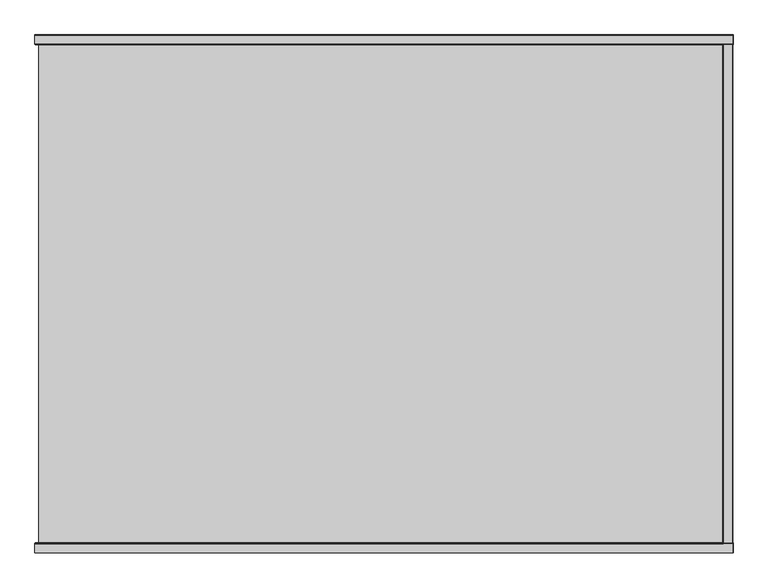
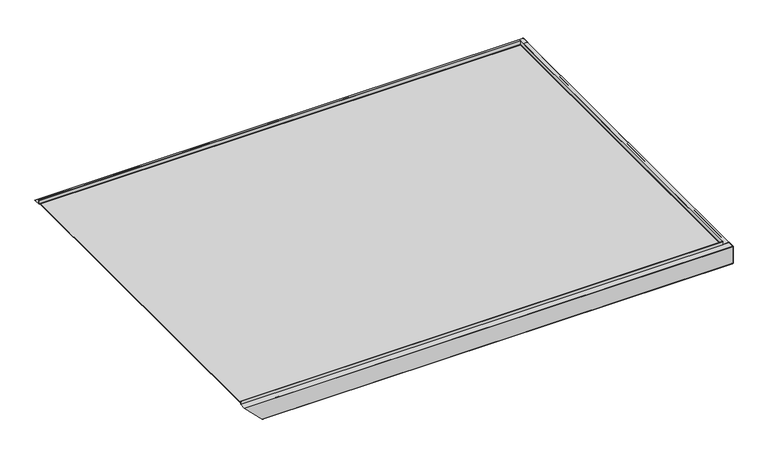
"""IFC4 building model written with IfcOpenShell, lengths in millimetres: proxy geometry, Specialy Equipment_Blindspace_Standard-Pockets-for-Roller-Blinds : 3500 mm x 2600 mm with 130 x 130 mm Box."""

from ifc_helpers import new_model, si_unit, point, frame, frame_2d, origin, place, context, project, spatial, polyline, circle_curve, ellipse_curve, trimmed, segment, composite_curve, outline, extrude, source, transform, mapped, element, save
from ifc_brep_helpers import plane_surface, cylinder_surface, advanced_brep


def specialty_equipment_84c0f78b(model_context):
    return source(origin(), model_context, "Body", "SolidModel", [
        extrude(outline(polyline([(1704.2337728, -1250.0), (1702.7519052, -1250.0), (1702.7519052, 1250.0), (1704.2337728, 1250.0), (1704.2337728, -1250.0)])), frame((0.0, 0.0, -180.0211687), z_axis=(0.0, 0.0, 1.0), x_axis=(1.0, 0.0, 0.0)), (0.0, 0.0, 1.0), 25.0211686),
        extrude(outline(polyline([(1704.2337728, -1250.0), (1702.7519052, -1250.0), (1702.7519052, 1250.0), (1704.2337728, 1250.0), (1704.2337728, -1250.0)])), frame((0.0, 0.0, -25.0), z_axis=(0.0, 0.0, 1.0), x_axis=(1.0, 0.0, 0.0)), (0.0, 0.0, 1.0), 25.0211686),
        extrude(outline(composite_curve([segment(trimmed(circle_curve(frame_2d((-154.2499999, 1749.25)), 0.75), [point((-154.9999999, 1749.25))], [point((-154.2499999, 1750.0))], False, "CARTESIAN"), True, "CONTINUOUS"), segment(polyline([(-154.2499999, 1750.0), (-25.75, 1750.0)]), True, "CONTINUOUS"), segment(trimmed(circle_curve(frame_2d((-25.75, 1749.25)), 0.75), [point((-25.75, 1750.0))], [point((-25.0, 1749.25))], False, "CARTESIAN"), True, "CONTINUOUS"), segment(polyline([(-25.0, 1749.25), (-25.0, 1702.9175768), (-27.5, 1700.0), (-27.5, 1723.0149627), (-32.8, 1723.0149627), (-32.8, 1729.9597598), (-27.5, 1729.9597598), (-27.5, 1738.0030209), (-32.8, 1738.0030209), (-32.8, 1744.991), (-27.5, 1744.991), (-27.5, 1747.5), (-152.4999999, 1747.5), (-152.4999999, 1744.991), (-147.1999999, 1744.991), (-147.1999999, 1738.0030209), (-152.4999999, 1738.0030209), (-152.4999999, 1729.9597598), (-147.1999999, 1729.9597598), (-147.1999999, 1723.0149627), (-152.4999999, 1723.0149627), (-152.4999999, 1702.4875145), (-58.9999999, 1702.4875145), (-58.9999999, 1707.4875145), (-56.4999999, 1707.4875145), (-56.4999999, 1700.0), (-152.4999999, 1700.0), (-154.9999999, 1702.9175768), (-154.9999999, 1749.25)]), True, "CONTINUOUS")], self_intersect=False)), frame((0.0, -1250.0, 0.0), z_axis=(0.0, 1.0, 0.0), x_axis=(0.0, 0.0, 1.0)), (0.0, 0.0, 1.0), 2500.0),
        extrude(outline(polyline([(-1750.0, -1254.2337728), (-1750.0, -1252.7519052), (1704.2, -1252.7519052), (1704.2, -1254.2337728), (-1750.0, -1254.2337728)])), frame((0.0, 0.0, -25.0), z_axis=(0.0, 0.0, 1.0), x_axis=(1.0, 0.0, 0.0)), (0.0, 0.0, 1.0), 25.0211686),
        extrude(outline(polyline([(-180.0211687, 1704.2), (-155.0000001, 1704.2), (-155.0000001, -1619.9999999), (-180.0211687, -1594.9788313), (-180.0211687, 1704.2)])), frame((0.0, -1254.2337728, 0.0), z_axis=(0.0, 1.0, 0.0), x_axis=(0.0, 0.0, 1.0)), (0.0, 0.0, 1.0), 1.4818676),
        advanced_brep(
        [(1750.0, -1299.25, -154.9999999), (1750.0, -1252.9175768, -154.9999999), (1750.0, -1250.0, -152.4999999), (1750.0, -1250.0, -56.4999999), (1750.0, -1257.4875145, -56.4999999), (1750.0, -1257.4875145, -58.9999999), (1750.0, -1252.4875145, -58.9999999), (1750.0, -1252.4875145, -152.4999999), (1750.0, -1273.0149627, -152.4999999), (1750.0, -1273.0149627, -147.1999999), (1750.0, -1279.9597598, -147.1999999), (1750.0, -1279.9597598, -152.4999999), (1750.0, -1288.0030209, -152.4999999), (1750.0, -1288.0030209, -147.1999999), (1750.0, -1294.991, -147.1999999), (1750.0, -1294.991, -152.4999999), (1750.0, -1297.5, -152.4999999), (1750.0, -1297.5, -27.5), (1750.0, -1294.991, -27.5), (1750.0, -1294.991, -32.8), (1750.0, -1288.0030209, -32.8), (1750.0, -1288.0030209, -27.5), (1750.0, -1279.9597598, -27.5), (1750.0, -1279.9597598, -32.8), (1750.0, -1273.0149627, -32.8), (1750.0, -1273.0149627, -27.5), (1750.0, -1250.0, -27.5), (1750.0, -1252.9175768, -25.0), (1750.0, -1299.25, -25.0), (1750.0, -1300.0, -25.75), (1750.0, -1300.0, -154.2499999), (-1620.0000001, -1299.25, -154.9999999), (-1620.0000001, -1252.9175768, -154.9999999), (-1622.5000001, -1250.0, -152.4999999), (-1622.5000001, -1252.4875145, -152.4999999), (-1622.5000001, -1273.0149627, -152.4999999), (-1627.8000001, -1273.0149627, -147.1999999), (-1627.8000001, -1279.9597598, -147.1999999), (-1622.5000001, -1279.9597598, -152.4999999), (-1622.5000001, -1288.0030209, -152.4999999), (-1627.8000001, -1288.0030209, -147.1999999), (-1627.8000001, -1294.991, -147.1999999), (-1622.5000001, -1294.991, -152.4999999), (-1622.5000001, -1297.5, -152.4999999), (-1747.5, -1297.5, -27.5), (-1747.5, -1294.991, -27.5), (-1742.2, -1294.991, -32.8), (-1742.2, -1288.0030209, -32.8), (-1747.5, -1288.0030209, -27.5), (-1747.5, -1279.9597598, -27.5), (-1742.2, -1279.9597598, -32.8), (-1742.2, -1273.0149627, -32.8), (-1747.5, -1273.0149627, -27.5), (-1747.5, -1250.0, -27.5), (-1750.0, -1252.9175768, -25.0), (-1750.0, -1299.25, -25.0), (-1749.25, -1300.0, -25.75), (-1620.7500001, -1300.0, -154.2499999), (-1718.5000001, -1250.0, -56.4999999), (-1718.5000001, -1257.4875145, -56.4999999), (-1716.0000001, -1257.4875145, -58.9999999), (-1716.0000001, -1252.4875145, -58.9999999)],
        [
            (0, 1),
            (1, 2),
            (2, 3),
            (3, 4),
            (4, 5),
            (5, 6),
            (6, 7),
            (7, 8),
            (8, 9),
            (9, 10),
            (10, 11),
            (11, 12),
            (12, 13),
            (13, 14),
            (14, 15),
            (15, 16),
            (16, 17),
            (17, 18),
            (18, 19),
            (19, 20),
            (20, 21),
            (21, 22),
            (22, 23),
            (23, 24),
            (24, 25),
            (25, 26),
            (26, 27),
            (27, 28),
            (28, 29, circle_curve(frame((1750.0, -1299.25, -25.75), z_axis=(1.0, 0.0, 0.0), x_axis=(0.0, 1.0, 0.0)), 0.75)),
            (29, 30),
            (30, 0, circle_curve(frame((1750.0, -1299.25, -154.2499999), z_axis=(1.0, 0.0, 0.0), x_axis=(0.0, 1.0, 0.0)), 0.75)),
            (0, 31),
            (31, 32),
            (32, 1),
            (32, 33),
            (33, 2),
            (7, 34),
            (34, 35),
            (35, 8),
            (35, 36),
            (36, 9),
            (36, 37),
            (37, 10),
            (37, 38),
            (38, 11),
            (38, 39),
            (39, 12),
            (39, 40),
            (40, 13),
            (40, 41),
            (41, 14),
            (41, 42),
            (42, 15),
            (42, 43),
            (43, 16),
            (43, 44),
            (44, 17),
            (44, 45),
            (45, 18),
            (45, 46),
            (46, 19),
            (46, 47),
            (47, 20),
            (47, 48),
            (48, 21),
            (48, 49),
            (49, 22),
            (49, 50),
            (50, 23),
            (50, 51),
            (51, 24),
            (51, 52),
            (52, 25),
            (52, 53),
            (53, 26),
            (53, 54),
            (54, 27),
            (54, 55),
            (55, 28),
            (55, 56, ellipse_curve(frame((-1749.25, -1299.25, -25.75), z_axis=(0.7071067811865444, 0.0, 0.7071067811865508), x_axis=(-0.7071067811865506, 0.0, 0.7071067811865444)), 1.0606602, 0.75)),
            (56, 29),
            (56, 57),
            (57, 30),
            (57, 31, ellipse_curve(frame((-1620.7500001, -1299.25, -154.2499999), z_axis=(0.7071067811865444, 0.0, 0.7071067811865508), x_axis=(-0.7071067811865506, 0.0, 0.7071067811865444)), 1.0606602, 0.75)),
            (33, 58),
            (58, 3),
            (58, 59),
            (59, 4),
            (59, 60),
            (60, 5),
            (60, 61),
            (61, 6),
            (61, 34),
        ],
        [
            plane_surface(frame((1750.0, -1300.0, -25.0), z_axis=(1.0, 0.0, 0.0), x_axis=(0.0, 0.0, 1.0))),
            plane_surface(frame((-1750.0, -1252.9175768, -154.9999999), z_axis=(0.0, 0.0, -1.0), x_axis=(1.0, 0.0, 0.0))),
            plane_surface(frame((-1750.0, -1250.0, -152.4999999), z_axis=(0.0, 0.650674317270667, -0.7593569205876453), x_axis=(1.0, 0.0, 0.0))),
            plane_surface(frame((-1750.0, -1273.0149627, -152.4999999), z_axis=(0.0, 0.0, 1.0), x_axis=(1.0, 0.0, 0.0))),
            plane_surface(frame((-1750.0, -1273.0149627, -147.1999999), z_axis=(0.0, 1.0, 0.0), x_axis=(1.0, 0.0, 0.0))),
            plane_surface(frame((-1750.0, -1279.9597598, -147.1999999), z_axis=(0.0, 0.0, 1.0), x_axis=(1.0, 0.0, 0.0))),
            plane_surface(frame((-1750.0, -1279.9597598, -152.4999999), z_axis=(0.0, -1.0, 0.0), x_axis=(1.0, 0.0, 0.0))),
            plane_surface(frame((-1750.0, -1288.0030209, -152.4999999), z_axis=(0.0, 0.0, 1.0), x_axis=(1.0, 0.0, 0.0))),
            plane_surface(frame((-1750.0, -1288.0030209, -147.1999999), z_axis=(0.0, 1.0, 0.0), x_axis=(1.0, 0.0, 0.0))),
            plane_surface(frame((-1750.0, -1294.991, -147.1999999), z_axis=(0.0, 0.0, 1.0), x_axis=(1.0, 0.0, 0.0))),
            plane_surface(frame((-1750.0, -1294.991, -152.4999999), z_axis=(0.0, -1.0, 0.0), x_axis=(1.0, 0.0, 0.0))),
            plane_surface(frame((-1750.0, -1297.5, -152.4999999), z_axis=(0.0, 0.0, 1.0), x_axis=(1.0, 0.0, 0.0))),
            plane_surface(frame((-1750.0, -1297.5, -27.5), z_axis=(0.0, 1.0, 0.0), x_axis=(1.0, 0.0, 0.0))),
            plane_surface(frame((-1750.0, -1294.991, -27.5), z_axis=(0.0, 0.0, -1.0), x_axis=(1.0, 0.0, 0.0))),
            plane_surface(frame((-1750.0, -1294.991, -32.8), z_axis=(0.0, -1.0, 0.0), x_axis=(1.0, 0.0, 0.0))),
            plane_surface(frame((-1750.0, -1288.0030209, -32.8), z_axis=(0.0, 0.0, -1.0), x_axis=(1.0, 0.0, 0.0))),
            plane_surface(frame((-1750.0, -1288.0030209, -27.5), z_axis=(0.0, 1.0, 0.0), x_axis=(1.0, 0.0, 0.0))),
            plane_surface(frame((-1750.0, -1279.9597598, -27.5), z_axis=(0.0, 0.0, -1.0), x_axis=(1.0, 0.0, 0.0))),
            plane_surface(frame((-1750.0, -1279.9597598, -32.8), z_axis=(0.0, -1.0, 0.0), x_axis=(1.0, 0.0, 0.0))),
            plane_surface(frame((-1750.0, -1273.0149627, -32.8), z_axis=(0.0, 0.0, -1.0), x_axis=(1.0, 0.0, 0.0))),
            plane_surface(frame((-1750.0, -1273.0149627, -27.5), z_axis=(0.0, 1.0, 0.0), x_axis=(1.0, 0.0, 0.0))),
            plane_surface(frame((-1750.0, -1250.0, -27.5), z_axis=(0.0, 0.0, -1.0), x_axis=(1.0, 0.0, 0.0))),
            plane_surface(frame((-1750.0, -1252.9175768, -25.0), z_axis=(0.0, 0.6506743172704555, 0.7593569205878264), x_axis=(1.0, 0.0, 0.0))),
            plane_surface(frame((-1750.0, -1299.25, -25.0), z_axis=(0.0, 0.0, 1.0), x_axis=(1.0, 0.0, 0.0))),
            cylinder_surface(frame((-1750.0, -1299.25, -25.75), z_axis=(-1.0, 0.0, 0.0), x_axis=(0.0, 1.0, 0.0)), 0.75),
            plane_surface(frame((-1750.0, -1300.0, -154.2499999), z_axis=(0.0, -1.0, 0.0), x_axis=(1.0, 0.0, 0.0))),
            cylinder_surface(frame((-1750.0, -1299.25, -154.2499999), z_axis=(-1.0, 0.0, 0.0), x_axis=(0.0, 1.0, 0.0)), 0.75),
            plane_surface(frame((-1750.0, -1250.0, -56.4999999), z_axis=(0.0, 1.0, 0.0), x_axis=(1.0, 0.0, 0.0))),
            plane_surface(frame((-1750.0, -1257.4875145, -56.4999999), z_axis=(0.0, 0.0, 1.0), x_axis=(1.0, 0.0, 0.0))),
            plane_surface(frame((-1750.0, -1257.4875145, -58.9999999), z_axis=(0.0, -1.0, 0.0), x_axis=(1.0, 0.0, 0.0))),
            plane_surface(frame((-1750.0, -1252.4875145, -58.9999999), z_axis=(0.0, 0.0, -1.0), x_axis=(1.0, 0.0, 0.0))),
            plane_surface(frame((-1750.0, -1252.4875145, -152.4999999), z_axis=(0.0, -1.0, 0.0), x_axis=(1.0, 0.0, 0.0))),
            plane_surface(frame((-1575.0, -1300.0, -200.0), z_axis=(-0.7071067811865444, 0.0, -0.7071067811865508), x_axis=(0.0, 1.0, 0.0))),
        ],
        [
            (0, [[1, 2, 3, 4, 5, 6, 7, 8, 9, 10, 11, 12, 13, 14, 15, 16, 17, 18, 19, 20, 21, 22, 23, 24, 25, 26, 27, 28, 29, 30, 31]]),
            (1, [[-1, 32, 33, 34]]),
            (2, [[-2, -34, 35, 36]]),
            (3, [[-8, 37, 38, 39]]),
            (4, [[-9, -39, 40, 41]]),
            (5, [[-10, -41, 42, 43]]),
            (6, [[-11, -43, 44, 45]]),
            (7, [[-12, -45, 46, 47]]),
            (8, [[-13, -47, 48, 49]]),
            (9, [[-14, -49, 50, 51]]),
            (10, [[-15, -51, 52, 53]]),
            (11, [[-16, -53, 54, 55]]),
            (12, [[-17, -55, 56, 57]]),
            (13, [[-18, -57, 58, 59]]),
            (14, [[-19, -59, 60, 61]]),
            (15, [[-20, -61, 62, 63]]),
            (16, [[-21, -63, 64, 65]]),
            (17, [[-22, -65, 66, 67]]),
            (18, [[-23, -67, 68, 69]]),
            (19, [[-24, -69, 70, 71]]),
            (20, [[-25, -71, 72, 73]]),
            (21, [[-26, -73, 74, 75]]),
            (22, [[-27, -75, 76, 77]]),
            (23, [[-28, -77, 78, 79]]),
            (24, [[-29, -79, 80, 81]]),
            (25, [[-30, -81, 82, 83]]),
            (26, [[-31, -83, 84, -32]]),
            (27, [[-3, -36, 85, 86]]),
            (28, [[-4, -86, 87, 88]]),
            (29, [[-5, -88, 89, 90]]),
            (30, [[-6, -90, 91, 92]]),
            (31, [[-7, -92, 93, -37]]),
            (32, [[-33, -84, -82, -80, -78, -76, -74, -72, -70, -68, -66, -64, -62, -60, -58, -56, -54, -52, -50, -48, -46, -44, -42, -40, -38, -93, -91, -89, -87, -85, -35]]),
        ],
    ),
        extrude(outline(polyline([(-1750.0337728, 1252.7519052), (-1750.0337728, 1254.2337728), (1704.2337728, 1254.2337728), (1704.2337728, 1252.7519052), (-1750.0337728, 1252.7519052)])), frame((0.0, 0.0, -25.0), z_axis=(0.0, 0.0, 1.0), x_axis=(1.0, 0.0, 0.0)), (0.0, 0.0, 1.0), 25.0211686),
        extrude(outline(polyline([(-180.0211687, 1704.2337728), (-155.0000001, 1704.2337728), (-155.0000001, -1619.9999999), (-180.0211687, -1594.9788313), (-180.0211687, 1704.2337728)])), frame((0.0, 1252.7519052, 0.0), z_axis=(0.0, 1.0, 0.0), x_axis=(0.0, 0.0, 1.0)), (0.0, 0.0, 1.0), 1.4818676),
        advanced_brep(
        [(1750.0, 1299.25, -154.9999999), (1750.0, 1300.0, -154.2499999), (1750.0, 1300.0, -25.75), (1750.0, 1299.25, -25.0), (1750.0, 1252.9175768, -25.0), (1750.0, 1250.0, -27.5), (1750.0, 1273.0149627, -27.5), (1750.0, 1273.0149627, -32.8), (1750.0, 1279.9597598, -32.8), (1750.0, 1279.9597598, -27.5), (1750.0, 1288.0030209, -27.5), (1750.0, 1288.0030209, -32.8), (1750.0, 1294.991, -32.8), (1750.0, 1294.991, -27.5), (1750.0, 1297.5, -27.5), (1750.0, 1297.5, -152.4999999), (1750.0, 1294.991, -152.4999999), (1750.0, 1294.991, -147.1999999), (1750.0, 1288.0030209, -147.1999999), (1750.0, 1288.0030209, -152.4999999), (1750.0, 1279.9597598, -152.4999999), (1750.0, 1279.9597598, -147.1999999), (1750.0, 1273.0149627, -147.1999999), (1750.0, 1273.0149627, -152.4999999), (1750.0, 1252.4875145, -152.4999999), (1750.0, 1252.4875145, -58.9999999), (1750.0, 1257.4875145, -58.9999999), (1750.0, 1257.4875145, -56.4999999), (1750.0, 1250.0, -56.4999999), (1750.0, 1250.0, -152.4999999), (1750.0, 1252.9175768, -154.9999999), (-1620.0000001, 1252.9175768, -154.9999999), (-1620.0000001, 1299.25, -154.9999999), (-1622.5000001, 1250.0, -152.4999999), (-1622.5000001, 1273.0149627, -152.4999999), (-1622.5000001, 1252.4875145, -152.4999999), (-1627.8000001, 1273.0149627, -147.1999999), (-1627.8000001, 1279.9597598, -147.1999999), (-1622.5000001, 1279.9597598, -152.4999999), (-1622.5000001, 1288.0030209, -152.4999999), (-1627.8000001, 1288.0030209, -147.1999999), (-1627.8000001, 1294.991, -147.1999999), (-1622.5000001, 1294.991, -152.4999999), (-1622.5000001, 1297.5, -152.4999999), (-1747.5, 1297.5, -27.5), (-1747.5, 1294.991, -27.5), (-1742.2, 1294.991, -32.8), (-1742.2, 1288.0030209, -32.8), (-1747.5, 1288.0030209, -27.5), (-1747.5, 1279.9597598, -27.5), (-1742.2, 1279.9597598, -32.8), (-1742.2, 1273.0149627, -32.8), (-1747.5, 1273.0149627, -27.5), (-1747.5, 1250.0, -27.5), (-1750.0, 1252.9175768, -25.0), (-1750.0, 1299.25, -25.0), (-1749.25, 1300.0, -25.75), (-1620.7500001, 1300.0, -154.2499999), (-1718.5000001, 1250.0, -56.4999999), (-1718.5000001, 1257.4875145, -56.4999999), (-1716.0000001, 1257.4875145, -58.9999999), (-1716.0000001, 1252.4875145, -58.9999999)],
        [
            (0, 1, circle_curve(frame((1750.0, 1299.25, -154.2499999), z_axis=(1.0, 0.0, 0.0), x_axis=(0.0, 1.0, 0.0)), 0.75)),
            (1, 2),
            (2, 3, circle_curve(frame((1750.0, 1299.25, -25.75), z_axis=(1.0, 0.0, 0.0), x_axis=(0.0, 1.0, 0.0)), 0.75)),
            (3, 4),
            (4, 5),
            (5, 6),
            (6, 7),
            (7, 8),
            (8, 9),
            (9, 10),
            (10, 11),
            (11, 12),
            (12, 13),
            (13, 14),
            (14, 15),
            (15, 16),
            (16, 17),
            (17, 18),
            (18, 19),
            (19, 20),
            (20, 21),
            (21, 22),
            (22, 23),
            (23, 24),
            (24, 25),
            (25, 26),
            (26, 27),
            (27, 28),
            (28, 29),
            (29, 30),
            (30, 0),
            (30, 31),
            (31, 32),
            (32, 0),
            (29, 33),
            (33, 31),
            (23, 34),
            (34, 35),
            (35, 24),
            (22, 36),
            (36, 34),
            (21, 37),
            (37, 36),
            (20, 38),
            (38, 37),
            (19, 39),
            (39, 38),
            (18, 40),
            (40, 39),
            (17, 41),
            (41, 40),
            (16, 42),
            (42, 41),
            (15, 43),
            (43, 42),
            (14, 44),
            (44, 43),
            (13, 45),
            (45, 44),
            (12, 46),
            (46, 45),
            (11, 47),
            (47, 46),
            (10, 48),
            (48, 47),
            (9, 49),
            (49, 48),
            (8, 50),
            (50, 49),
            (7, 51),
            (51, 50),
            (6, 52),
            (52, 51),
            (5, 53),
            (53, 52),
            (4, 54),
            (54, 53),
            (3, 55),
            (55, 54),
            (2, 56),
            (56, 55, ellipse_curve(frame((-1749.25, 1299.25, -25.75), z_axis=(0.7071067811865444, 0.0, 0.7071067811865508), x_axis=(-0.7071067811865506, 0.0, 0.7071067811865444)), 1.0606602, 0.75)),
            (1, 57),
            (57, 56),
            (32, 57, ellipse_curve(frame((-1620.7500001, 1299.25, -154.2499999), z_axis=(0.7071067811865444, 0.0, 0.7071067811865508), x_axis=(-0.7071067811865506, 0.0, 0.7071067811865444)), 1.0606602, 0.75)),
            (28, 58),
            (58, 33),
            (27, 59),
            (59, 58),
            (26, 60),
            (60, 59),
            (25, 61),
            (61, 60),
            (35, 61),
        ],
        [
            plane_surface(frame((1750.0, 1300.0, -25.0), z_axis=(1.0, 0.0, 0.0), x_axis=(0.0, 0.0, 1.0))),
            plane_surface(frame((-1750.0, 1299.25, -154.9999999), z_axis=(0.0, 0.0, -1.0), x_axis=(1.0, 0.0, 0.0))),
            plane_surface(frame((-1750.0, 1252.9175768, -154.9999999), z_axis=(0.0, -0.6506743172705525, -0.7593569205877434), x_axis=(1.0, 0.0, 0.0))),
            plane_surface(frame((-1750.0, 1252.4875145, -152.4999999), z_axis=(0.0, 0.0, 1.0), x_axis=(1.0, 0.0, 0.0))),
            plane_surface(frame((-1750.0, 1273.0149627, -152.4999999), z_axis=(0.0, -1.0, 0.0), x_axis=(1.0, 0.0, 0.0))),
            plane_surface(frame((-1750.0, 1273.0149627, -147.1999999), z_axis=(0.0, 0.0, 1.0), x_axis=(1.0, 0.0, 0.0))),
            plane_surface(frame((-1750.0, 1279.9597598, -147.1999999), z_axis=(0.0, 1.0, 0.0), x_axis=(1.0, 0.0, 0.0))),
            plane_surface(frame((-1750.0, 1279.9597598, -152.4999999), z_axis=(0.0, 0.0, 1.0), x_axis=(1.0, 0.0, 0.0))),
            plane_surface(frame((-1750.0, 1288.0030209, -152.4999999), z_axis=(0.0, -1.0, 0.0), x_axis=(1.0, 0.0, 0.0))),
            plane_surface(frame((-1750.0, 1288.0030209, -147.1999999), z_axis=(0.0, 0.0, 1.0), x_axis=(1.0, 0.0, 0.0))),
            plane_surface(frame((-1750.0, 1294.991, -147.1999999), z_axis=(0.0, 1.0, 0.0), x_axis=(1.0, 0.0, 0.0))),
            plane_surface(frame((-1750.0, 1294.991, -152.4999999), z_axis=(0.0, 0.0, 1.0), x_axis=(1.0, 0.0, 0.0))),
            plane_surface(frame((-1750.0, 1297.5, -152.4999999), z_axis=(0.0, -1.0, 0.0), x_axis=(1.0, 0.0, 0.0))),
            plane_surface(frame((-1750.0, 1297.5, -27.5), z_axis=(0.0, 0.0, -1.0), x_axis=(1.0, 0.0, 0.0))),
            plane_surface(frame((-1750.0, 1294.991, -27.5), z_axis=(0.0, 1.0, 0.0), x_axis=(1.0, 0.0, 0.0))),
            plane_surface(frame((-1750.0, 1294.991, -32.8), z_axis=(0.0, 0.0, -1.0), x_axis=(1.0, 0.0, 0.0))),
            plane_surface(frame((-1750.0, 1288.0030209, -32.8), z_axis=(0.0, -1.0, 0.0), x_axis=(1.0, 0.0, 0.0))),
            plane_surface(frame((-1750.0, 1288.0030209, -27.5), z_axis=(0.0, 0.0, -1.0), x_axis=(1.0, 0.0, 0.0))),
            plane_surface(frame((-1750.0, 1279.9597598, -27.5), z_axis=(0.0, 1.0, 0.0), x_axis=(1.0, 0.0, 0.0))),
            plane_surface(frame((-1750.0, 1279.9597598, -32.8), z_axis=(0.0, 0.0, -1.0), x_axis=(1.0, 0.0, 0.0))),
            plane_surface(frame((-1750.0, 1273.0149627, -32.8), z_axis=(0.0, -1.0, 0.0), x_axis=(1.0, 0.0, 0.0))),
            plane_surface(frame((-1750.0, 1273.0149627, -27.5), z_axis=(0.0, 0.0, -1.0), x_axis=(1.0, 0.0, 0.0))),
            plane_surface(frame((-1750.0, 1250.0, -27.5), z_axis=(0.0, -0.6506743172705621, 0.7593569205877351), x_axis=(1.0, 0.0, 0.0))),
            plane_surface(frame((-1750.0, 1252.9175768, -25.0), z_axis=(0.0, 0.0, 1.0), x_axis=(1.0, 0.0, 0.0))),
            cylinder_surface(frame((-1750.0, 1299.25, -25.75), z_axis=(-1.0, 0.0, 0.0), x_axis=(0.0, 1.0, 0.0)), 0.75),
            plane_surface(frame((-1750.0, 1300.0, -25.75), z_axis=(0.0, 1.0, 0.0), x_axis=(1.0, 0.0, 0.0))),
            cylinder_surface(frame((-1750.0, 1299.25, -154.2499999), z_axis=(-1.0, 0.0, 0.0), x_axis=(0.0, 1.0, 0.0)), 0.75),
            plane_surface(frame((-1750.0, 1250.0, -152.4999999), z_axis=(0.0, -1.0, 0.0), x_axis=(1.0, 0.0, 0.0))),
            plane_surface(frame((-1750.0, 1250.0, -56.4999999), z_axis=(0.0, 0.0, 1.0), x_axis=(1.0, 0.0, 0.0))),
            plane_surface(frame((-1750.0, 1257.4875145, -56.4999999), z_axis=(0.0, 1.0, 0.0), x_axis=(1.0, 0.0, 0.0))),
            plane_surface(frame((-1750.0, 1257.4875145, -58.9999999), z_axis=(0.0, 0.0, -1.0), x_axis=(1.0, 0.0, 0.0))),
            plane_surface(frame((-1750.0, 1252.4875145, -58.9999999), z_axis=(0.0, 1.0, 0.0), x_axis=(1.0, 0.0, 0.0))),
            plane_surface(frame((-1575.0, -1300.0, -200.0), z_axis=(-0.7071067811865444, 0.0, -0.7071067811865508), x_axis=(0.0, 1.0, 0.0))),
        ],
        [
            (0, [[1, 2, 3, 4, 5, 6, 7, 8, 9, 10, 11, 12, 13, 14, 15, 16, 17, 18, 19, 20, 21, 22, 23, 24, 25, 26, 27, 28, 29, 30, 31]]),
            (1, [[-31, 32, 33, 34]]),
            (2, [[-30, 35, 36, -32]]),
            (3, [[-24, 37, 38, 39]]),
            (4, [[-23, 40, 41, -37]]),
            (5, [[-22, 42, 43, -40]]),
            (6, [[-21, 44, 45, -42]]),
            (7, [[-20, 46, 47, -44]]),
            (8, [[-19, 48, 49, -46]]),
            (9, [[-18, 50, 51, -48]]),
            (10, [[-17, 52, 53, -50]]),
            (11, [[-16, 54, 55, -52]]),
            (12, [[-15, 56, 57, -54]]),
            (13, [[-14, 58, 59, -56]]),
            (14, [[-13, 60, 61, -58]]),
            (15, [[-12, 62, 63, -60]]),
            (16, [[-11, 64, 65, -62]]),
            (17, [[-10, 66, 67, -64]]),
            (18, [[-9, 68, 69, -66]]),
            (19, [[-8, 70, 71, -68]]),
            (20, [[-7, 72, 73, -70]]),
            (21, [[-6, 74, 75, -72]]),
            (22, [[-5, 76, 77, -74]]),
            (23, [[-4, 78, 79, -76]]),
            (24, [[-3, 80, 81, -78]]),
            (25, [[-2, 82, 83, -80]]),
            (26, [[-1, -34, 84, -82]]),
            (27, [[-29, 85, 86, -35]]),
            (28, [[-28, 87, 88, -85]]),
            (29, [[-27, 89, 90, -87]]),
            (30, [[-26, 91, 92, -89]]),
            (31, [[-25, -39, 93, -91]]),
            (32, [[-33, -36, -86, -88, -90, -92, -93, -38, -41, -43, -45, -47, -49, -51, -53, -55, -57, -59, -61, -63, -65, -67, -69, -71, -73, -75, -77, -79, -81, -83, -84]]),
        ],
    ),
        extrude(outline(polyline([(-46.9999999, 1730.0), (-41.9999999, 1730.0), (-41.9999999, -1730.0), (-45.0, -1730.0), (-46.9999999, -1728.0000001), (-46.9999999, 1730.0)])), frame((0.0, -1280.0, 0.0), z_axis=(0.0, 1.0, 0.0), x_axis=(0.0, 0.0, 1.0)), (0.0, 0.0, 1.0), 2560.0),
        extrude(outline(polyline([(1752.5, -1300.0), (1750.0, -1300.0), (1750.0, -1250.0), (1752.5, -1250.0), (1752.5, -1300.0)])), frame((0.0, 0.0, -155.0), z_axis=(0.0, 0.0, 1.0), x_axis=(1.0, 0.0, 0.0)), (0.0, 0.0, 1.0), 130.0),
        extrude(outline(polyline([(1752.5, 1300.0), (1752.5, 1250.0), (1750.0, 1250.0), (1750.0, 1300.0), (1752.5, 1300.0)])), frame((0.0, 0.0, -155.0), z_axis=(0.0, 0.0, 1.0), x_axis=(1.0, 0.0, 0.0)), (0.0, 0.0, 1.0), 130.0),
    ])


if __name__ == "__main__":
    model = new_model("IFC4")
    model_context = context("Model", 3, world=origin())
    ifc_project = project(units=[si_unit("LENGTHUNIT", "METRE", prefix="MILLI")], contexts=[model_context])
    site = spatial("IfcSite", under=ifc_project)
    building = spatial("IfcBuilding", under=site)
    placement = place(None, origin())
    specialty_equipment_shape = specialty_equipment_84c0f78b(model_context)
    element("IfcBuildingElementProxy", 1, Name="Specialy Equipment_Blindspace_Standard-Pockets-for-Roller-Blinds : 3500 mm x 2600 mm with 130 x 130 mm Box", ObjectType="Specialy Equipment_Blindspace_Standard-Pockets-for-Roller-Blinds : 3500 mm x 2600 mm with 130 x 130 mm Box", at=placement, inside=building, context=model_context, shape_type="MappedRepresentation", body=[
        mapped(specialty_equipment_shape, transform((0.0, 0.0, 0.0), x_axis=(1.0, 0.0, 0.0), y_axis=(0.0, 1.0, 0.0), z_axis=(0.0, 0.0, 1.0))),
    ])
    save(model, "model.ifc")
